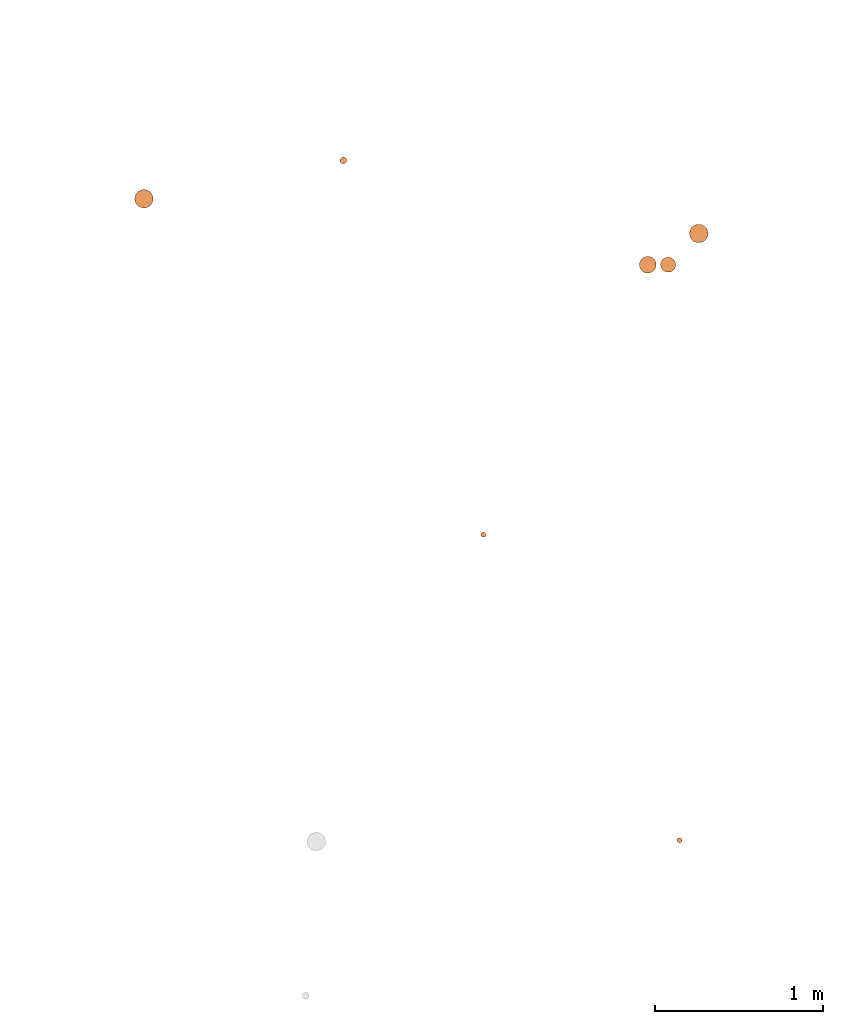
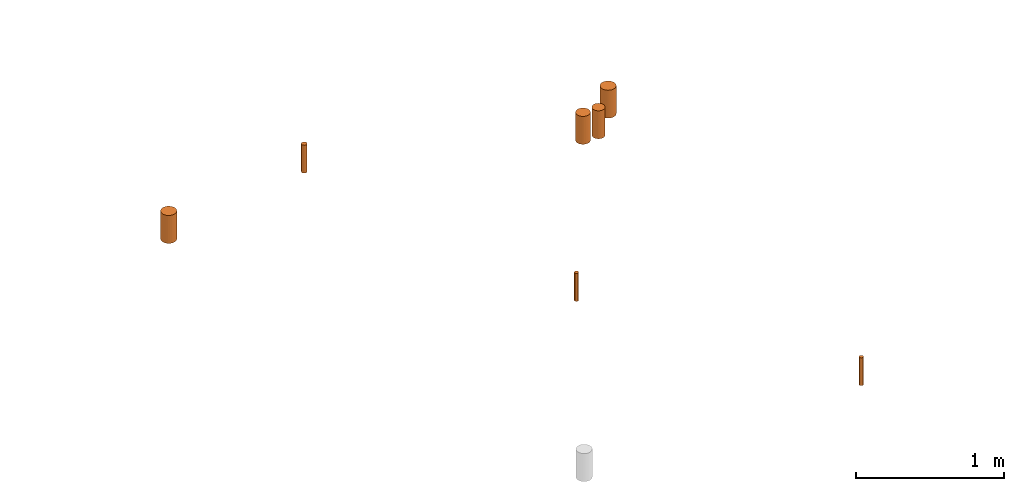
# One storey, part 15 of 16: 7 proxies.
"""IFC2X3 building model written with IfcOpenShell, lengths in centimetres."""

from ifc_helpers import new_model, entity, si_unit, converted_unit, derived_unit, direction, frame, origin, origin_2d_with_axis, place, context, subcontext, project, spatial, circle, extrude, source, transform, mapped, material, type_object, type_shapes, element, save


model = new_model("IFC2X3")

# Units and contexts
model_context = context("Model", 3, precision=0.001, world=origin(), true_north=direction((6.12303176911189e-17, 1.0)))
body_context = subcontext(model_context, "Body", "Model", "MODEL_VIEW")
ifc_project = project(units=[si_unit("LENGTHUNIT", "METRE", prefix="CENTI"), si_unit("AREAUNIT", "SQUARE_METRE"), si_unit("VOLUMEUNIT", "CUBIC_METRE"), converted_unit("PLANEANGLEUNIT", "DEGREE", entity("IfcRatioMeasure", 0.0174532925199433), si_unit("PLANEANGLEUNIT", "RADIAN"), dimensions=[0, 0, 0, 0, 0, 0, 0]), si_unit("MASSUNIT", "GRAM", prefix="KILO"), derived_unit("MASSDENSITYUNIT", [(si_unit("MASSUNIT", "GRAM", prefix="KILO"), 1), (si_unit("LENGTHUNIT", "METRE"), -3)]), si_unit("TIMEUNIT", "SECOND"), si_unit("FREQUENCYUNIT", "HERTZ"), si_unit("THERMODYNAMICTEMPERATUREUNIT", "DEGREE_CELSIUS"), derived_unit("THERMALTRANSMITTANCEUNIT", [(si_unit("MASSUNIT", "GRAM", prefix="KILO"), 1), (si_unit("THERMODYNAMICTEMPERATUREUNIT", "KELVIN"), -1), (si_unit("TIMEUNIT", "SECOND"), -3)]), derived_unit("VOLUMETRICFLOWRATEUNIT", [(si_unit("LENGTHUNIT", "METRE"), 3), (si_unit("TIMEUNIT", "SECOND"), -1)]), si_unit("ELECTRICCURRENTUNIT", "AMPERE"), si_unit("ELECTRICVOLTAGEUNIT", "VOLT"), si_unit("POWERUNIT", "WATT"), si_unit("FORCEUNIT", "NEWTON"), si_unit("ILLUMINANCEUNIT", "LUX"), si_unit("LUMINOUSFLUXUNIT", "LUMEN"), si_unit("LUMINOUSINTENSITYUNIT", "CANDELA"), derived_unit("USERDEFINED", [(si_unit("MASSUNIT", "GRAM", prefix="KILO"), -1), (si_unit("LENGTHUNIT", "METRE"), -2), (si_unit("TIMEUNIT", "SECOND"), 3), (si_unit("LUMINOUSFLUXUNIT", "LUMEN"), 1)]), derived_unit("LINEARVELOCITYUNIT", [(si_unit("LENGTHUNIT", "METRE"), 1), (si_unit("TIMEUNIT", "SECOND"), -1)]), si_unit("PRESSUREUNIT", "PASCAL"), derived_unit("USERDEFINED", [(si_unit("LENGTHUNIT", "METRE"), -2), (si_unit("MASSUNIT", "GRAM", prefix="KILO"), 1), (si_unit("TIMEUNIT", "SECOND"), -2)])], contexts=[model_context])

# Site, building, storey
site_placement = place(None, origin())
site = spatial("IfcSite", under=ifc_project, at=site_placement, Name="Default", CompositionType="ELEMENT")
building_placement = place(site_placement, origin())
building = spatial("IfcBuilding", under=site, at=building_placement, Name="CAGE 03", CompositionType="ELEMENT")
storey_placement = place(building_placement, frame((0.0, 0.0, 65.0)))
storey = spatial("IfcBuildingStorey", under=building, at=storey_placement, Name="Ac RDC", CompositionType="ELEMENT", Elevation=64.9999999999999)

# Proxies
ifc_material = material(Name="BBGO_Résa")
building_element_proxy_type_1 = type_object("IfcBuildingElementProxyType", Name="Ø40", PredefinedType="NOTDEFINED", material=ifc_material)
shared_shape_1 = source(origin(), body_context, "Body", "SweptSolid", [
    extrude(circle(Radius=2.0, at=origin_2d_with_axis()), frame((10635.0877181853, 4872.2386241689, 317.0)), (0.0, 0.0, 1.0), 22.9999999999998),
])
type_shapes(building_element_proxy_type_1, [shared_shape_1])
proxy_1_placement = place(storey_placement, frame((0.0, 0.0, -65.0)))
element("IfcBuildingElementProxy", 1, at=proxy_1_placement, inside=storey, type_object=building_element_proxy_type_1, material=ifc_material, Name="BBGO-Résa circ dalle:Ø40", ObjectType="Ø40", context=body_context, shape_type="MappedRepresentation", body=[
    mapped(shared_shape_1, transform((0.0, 0.0, 0.0), scale=1.0)),
])
building_element_proxy_type_2 = type_object("IfcBuildingElementProxyType", Name="Ø30", PredefinedType="NOTDEFINED", material=ifc_material)
shared_shape_2 = source(origin(), body_context, "Body", "SweptSolid", [
    extrude(circle(Radius=1.5, at=origin_2d_with_axis()), frame((10718.5241668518, 4649.39717575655, 317.0)), (0.0, 0.0, 1.0), 22.9999999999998),
])
type_shapes(building_element_proxy_type_2, [shared_shape_2])
proxy_2_placement = place(storey_placement, frame((0.0, 0.0, -65.0)))
element("IfcBuildingElementProxy", 2, at=proxy_2_placement, inside=storey, type_object=building_element_proxy_type_2, material=ifc_material, Name="BBGO-Résa circ dalle:Ø30", ObjectType="Ø30", context=body_context, shape_type="MappedRepresentation", body=[
    mapped(shared_shape_2, transform((0.0, 0.0, 0.0), scale=1.0)),
])
building_element_proxy_type_3 = type_object("IfcBuildingElementProxyType", Name="Ø30", PredefinedType="NOTDEFINED", material=ifc_material)
shared_shape_3 = source(origin(), body_context, "Body", "SweptSolid", [
    extrude(circle(Radius=1.5, at=origin_2d_with_axis()), frame((10835.3062513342, 4467.37888744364, 317.0)), (0.0, 0.0, 1.0), 22.9999999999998),
])
type_shapes(building_element_proxy_type_3, [shared_shape_3])
proxy_3_placement = place(storey_placement, frame((0.0, 0.0, -65.0)))
element("IfcBuildingElementProxy", 3, at=proxy_3_placement, inside=storey, type_object=building_element_proxy_type_3, material=ifc_material, Name="BBGO-Résa circ dalle:Ø30", ObjectType="Ø30", context=body_context, shape_type="MappedRepresentation", body=[
    mapped(shared_shape_3, transform((0.0, 0.0, 0.0), scale=1.0)),
])
building_element_proxy_type_4 = type_object("IfcBuildingElementProxyType", Name="Ø110", PredefinedType="NOTDEFINED", material=ifc_material)
shared_shape_4 = source(origin(), body_context, "Body", "SweptSolid", [
    extrude(circle(Radius=5.5, at=origin_2d_with_axis()), frame((10516.3663623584, 4849.41389855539, 317.0)), (0.0, 0.0, 1.0), 22.9999999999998),
])
type_shapes(building_element_proxy_type_4, [shared_shape_4])
proxy_4_placement = place(storey_placement, frame((0.0, 0.0, -65.0)))
element("IfcBuildingElementProxy", 4, at=proxy_4_placement, inside=storey, type_object=building_element_proxy_type_4, material=ifc_material, Name="BBGO-Résa circ dalle:Ø110", ObjectType="Ø110", context=body_context, shape_type="MappedRepresentation", body=[
    mapped(shared_shape_4, transform((0.0, 0.0, 0.0), scale=1.0)),
])
building_element_proxy_type_5 = type_object("IfcBuildingElementProxyType", Name="Ø110", PredefinedType="NOTDEFINED", material=ifc_material)
shared_shape_5 = source(origin(), body_context, "Body", "SweptSolid", [
    extrude(circle(Radius=5.5, at=origin_2d_with_axis()), frame((10846.7826461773, 4828.73252291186, 317.0)), (0.0, 0.0, 1.0), 22.9999999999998),
])
type_shapes(building_element_proxy_type_5, [shared_shape_5])
proxy_5_placement = place(storey_placement, frame((0.0, 0.0, -65.0)))
element("IfcBuildingElementProxy", 5, at=proxy_5_placement, inside=storey, type_object=building_element_proxy_type_5, material=ifc_material, Name="BBGO-Résa circ dalle:Ø110", ObjectType="Ø110", context=body_context, shape_type="MappedRepresentation", body=[
    mapped(shared_shape_5, transform((0.0, 0.0, 0.0), scale=1.0)),
])
building_element_proxy_type_6 = type_object("IfcBuildingElementProxyType", Name="Ø100", PredefinedType="NOTDEFINED", material=ifc_material)
shared_shape_6 = source(origin(), body_context, "Body", "SweptSolid", [
    extrude(circle(Radius=5.0, at=origin_2d_with_axis()), frame((10816.4410166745, 4810.1471277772, 317.0)), (0.0, 0.0, 1.0), 22.9999999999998),
])
type_shapes(building_element_proxy_type_6, [shared_shape_6])
proxy_6_placement = place(storey_placement, frame((0.0, 0.0, -65.0)))
element("IfcBuildingElementProxy", 6, at=proxy_6_placement, inside=storey, type_object=building_element_proxy_type_6, material=ifc_material, Name="BBGO-Résa circ dalle:Ø100", ObjectType="Ø100", context=body_context, shape_type="MappedRepresentation", body=[
    mapped(shared_shape_6, transform((0.0, 0.0, 0.0), scale=1.0)),
])
building_element_proxy_type_7 = type_object("IfcBuildingElementProxyType", Name="Ø90", PredefinedType="NOTDEFINED", material=ifc_material)
shared_shape_7 = source(origin(), body_context, "Body", "SweptSolid", [
    extrude(circle(Radius=4.5, at=origin_2d_with_axis()), frame((10828.5410166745, 4810.1471277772, 317.0)), (0.0, 0.0, 1.0), 22.9999999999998),
])
type_shapes(building_element_proxy_type_7, [shared_shape_7])
proxy_7_placement = place(storey_placement, frame((0.0, 0.0, -65.0)))
element("IfcBuildingElementProxy", 7, at=proxy_7_placement, inside=storey, type_object=building_element_proxy_type_7, material=ifc_material, Name="BBGO-Résa circ dalle:Ø90", ObjectType="Ø90", context=body_context, shape_type="MappedRepresentation", body=[
    mapped(shared_shape_7, transform((0.0, 0.0, 0.0), scale=1.0)),
])

save(model, "model.ifc")
